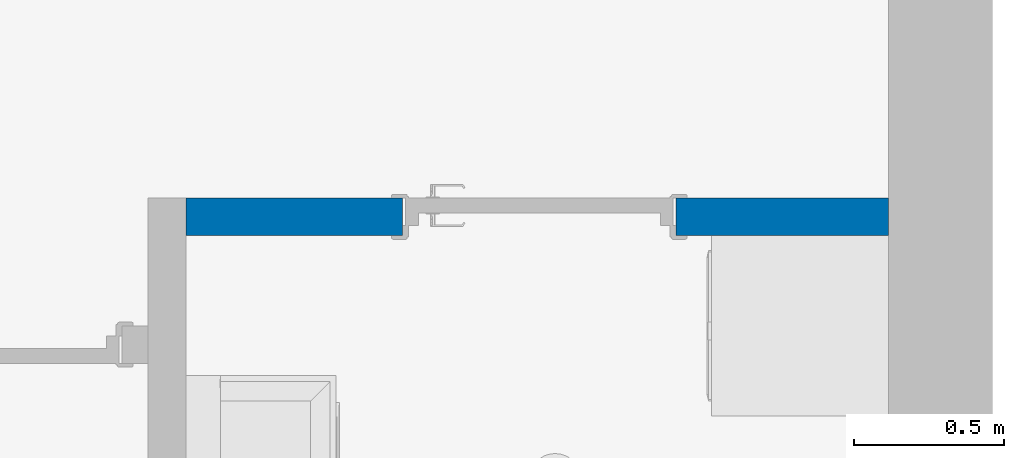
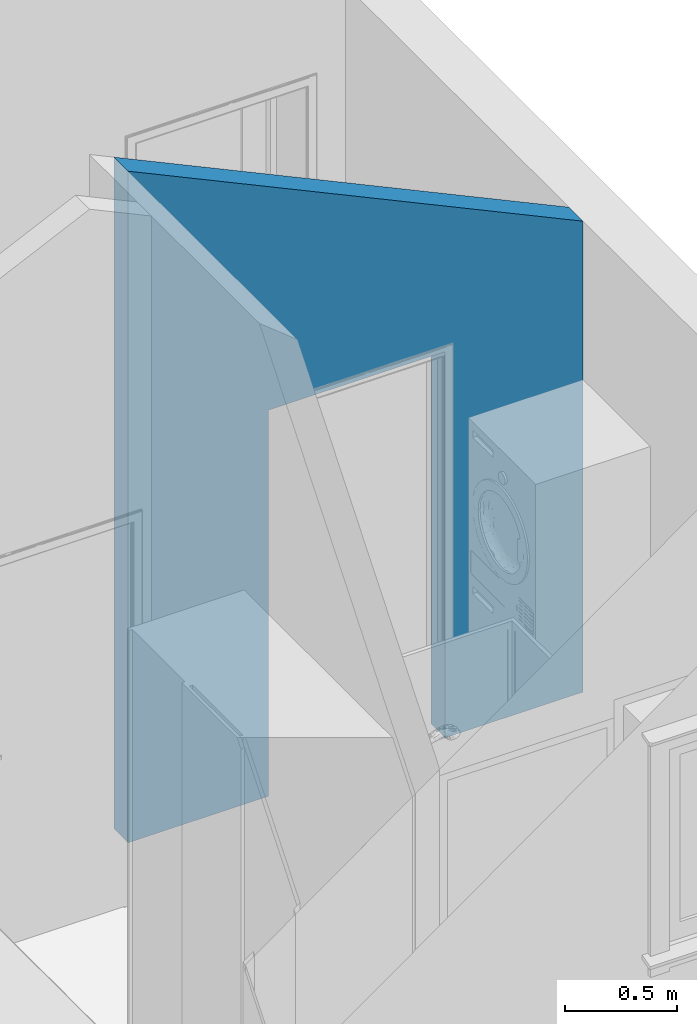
# One storey, part 27 of 44: 1 wall, 2 openings.
"""IFC2X3 building model written with IfcOpenShell, lengths in millimetres."""

from ifc_helpers import new_model, entity, si_unit, converted_unit, direction, frame, frame_2d, origin, origin_2d_with_axis, place, context, subcontext, project, spatial, polyline, rectangle, extrude, clip, bounded_halfspace, material, layer, layer_set, layer_usage, type_object, element, save


model = new_model("IFC2X3")

# Units and contexts
model_context = context("Model", 3, precision=0.01, world=origin(), true_north=direction((0.0, 1.0)))
body_context = subcontext(model_context, "Body", "Model", "MODEL_VIEW")
ifc_project = project(units=[si_unit("LENGTHUNIT", "METRE", prefix="MILLI"), si_unit("AREAUNIT", "SQUARE_METRE"), si_unit("VOLUMEUNIT", "CUBIC_METRE"), converted_unit("PLANEANGLEUNIT", "DEGREE", entity("IfcPlaneAngleMeasure", 0.017453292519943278), si_unit("PLANEANGLEUNIT", "RADIAN"), dimensions=[0, 0, 0, 0, 0, 0, 0])], contexts=[model_context])

# Site, building, storey
site_placement = place(None, origin())
site = spatial("IfcSite", under=ifc_project, at=site_placement, Name="Default", CompositionType="ELEMENT")
building_placement = place(site_placement, origin())
building = spatial("IfcBuilding", under=site, at=building_placement, CompositionType="ELEMENT")
storey_placement = place(building_placement, frame((0.0, 0.0, 2681.0)))
storey = spatial("IfcBuildingStorey", under=building, at=storey_placement, Name="Et. 2", CompositionType="ELEMENT", Elevation=2681.0)

# Wall, openings
ifc_material_1 = material(Name="Vegg - Gips - Innvendig - Hvit")
ifc_layer_1 = layer(ifc_material_1, 13.000000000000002)
ifc_material_2 = material(Name="Vegg - Stender - Stål - Isolert")
ifc_layer_2 = layer(ifc_material_2, 100.0)
ifc_layer_3 = layer(ifc_material_1, 13.000000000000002)
ifc_layer_set = layer_set([ifc_layer_1, ifc_layer_2, ifc_layer_3], Name="Basic Wall:24-GSIG-13_100_13")
ifc_layer_usage = layer_usage(ifc_layer_set, "AXIS2", "NEGATIVE", 63.00000000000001)
wall_type = type_object("IfcWallType", Name="Basic Wall:24-GSIG-13_100_13", PredefinedType="STANDARD", material=ifc_layer_set)
wall_placement = place(storey_placement, frame((31578.00958675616, 11595.058719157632, 0.0)))
wall = element("IfcWallStandardCase", 1, at=wall_placement, inside=storey, type_object=wall_type, material=ifc_layer_usage, Name="Basic Wall:24-GSIG-13_100_13", context=body_context, shape_type="Clipping", body=[
    clip(extrude(rectangle(XDim=2341.000000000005, YDim=125.99999999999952, at=frame_2d((1170.5000000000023, 1.4530598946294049e-12), x_axis=(1.0, 0.0))), origin(), (0.0, 0.0, 1.0), 3652.9686774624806), bounded_halfspace(frame((0.0, -63.0, 3652.9686774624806), z_axis=(0.42261826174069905, 0.0, 0.9063077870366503), x_axis=(0.0, 1.0, 0.0)), False, frame((0.0, -63.0, 3652.9686774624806)), polyline([(0.0, 0.0), (2341.0, 0.0), (2341.0, 126.0), (0.0, 126.0), (0.0, 0.0)]))),
])
opening_1_placement = place(wall_placement, frame((722.0, -63.0, 0.0)))
element("IfcOpeningElement", 2, at=opening_1_placement, cuts=wall, Name="ID Hel:9x21M:1", ObjectType="Opening", context=body_context, shape_type="SweptSolid", body=[
    extrude(rectangle(XDim=910.0000000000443, YDim=2100.0000000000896, at=frame_2d((1050.0000000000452, 455.00000000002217), x_axis=(0.0, 1.0))), frame((0.0, 0.0, 0.0), z_axis=(0.0, 1.0, 0.0), x_axis=(0.0, 0.0, 1.0)), (0.0, 0.0, 1.0), 126.00000000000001),
])
opening_2_placement = place(wall_placement, frame((-31578.009586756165, -11595.058719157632, 0.0)))
element("IfcOpeningElement", 3, at=opening_2_placement, cuts=wall, Name="Basic Wall:24-GSIG-13_100_13", ObjectType="Opening", context=body_context, shape_type="SweptSolid", body=[
    extrude(rectangle(XDim=2100.00000000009, YDim=910.0000000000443, at=origin_2d_with_axis()), frame((32755.009586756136, 10008.058719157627, 1050.0), z_axis=(0.0, 1.0, 0.0), x_axis=(0.0, 0.0, 1.0)), (0.0, 0.0, 1.0), 3048.0),
])

save(model, "model.ifc")
